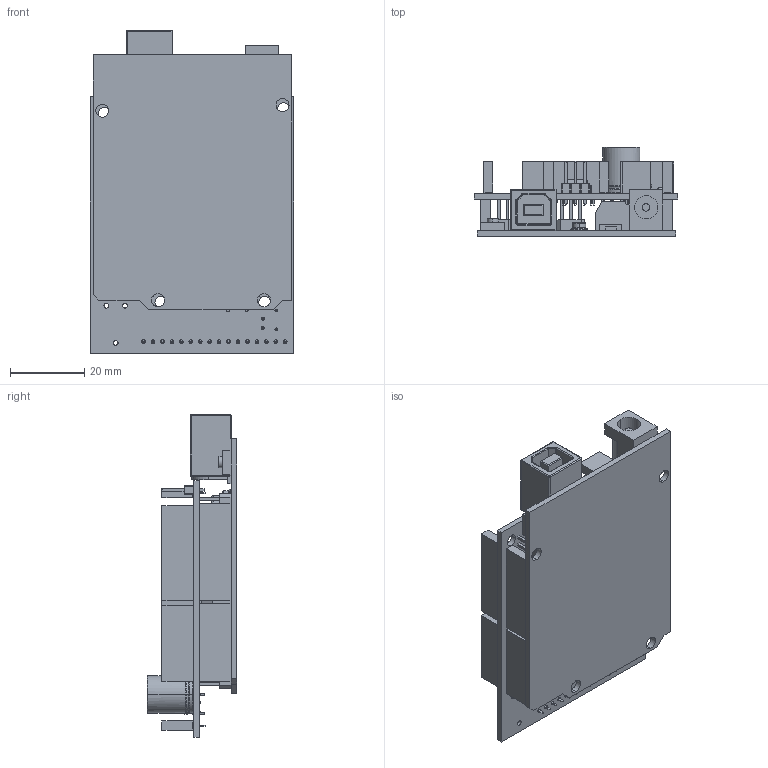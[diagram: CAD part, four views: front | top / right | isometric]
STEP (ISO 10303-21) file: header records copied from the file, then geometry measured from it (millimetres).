
FILE_DESCRIPTION (( 'STEP AP214' ), '1' );
FILE_NAME ('ArduinoUnoR3.STEP', '2026-08-23T20:33:26', ( '' ), ( '' ), 'SwSTEP 2.0', 'SolidWorks 2026', '' );
FILE_SCHEMA (( 'AUTOMOTIVE_DESIGN' ));
Length unit declared in the file: millimetre
Products named in the file (16): AqueliotrophPCB; PinSocket_1x10_P2.54mm_Vertical.step; Arduino_Uno; R_Axial_DIN0204_L3.6mm_D1.6mm_P5.08mm_Horizontal.step; DIP-16_W7.62mm.step; PinSocket_1x02_P2.54mm_Vertical.step; C_Disc_D3.8mm_W2.6mm_P2.50mm.step; PinSocket_1x16_P2.54mm_Vertical.step; PinSocket_1x06_P2.54mm_Vertical.step; Aqueliotroph_PCB.step; PinSocket_1x03_P2.54mm_Vertical.step; AqueliotrophPCB.step; PinSocket_1x08_P2.54mm_Vertical.step; PinHeader_1x03_P2.54mm_Vertical.step; ArduinoUnoR3; C_Radial_D10.0mm_H12.5mm_P5.00mm.step
Assembly tree (21 placements, depth 4):
  ArduinoUnoR3
    AqueliotrophPCB
      AqueliotrophPCB.step
        PinSocket_1x08_P2.54mm_Vertical.step  x2
        PinSocket_1x06_P2.54mm_Vertical.step
        PinSocket_1x10_P2.54mm_Vertical.step
        PinSocket_1x03_P2.54mm_Vertical.step  x3
        C_Radial_D10.0mm_H12.5mm_P5.00mm.step
        R_Axial_DIN0204_L3.6mm_D1.6mm_P5.08mm_Horizontal.step  x2
        PinSocket_1x02_P2.54mm_Vertical.step  x3
        C_Disc_D3.8mm_W2.6mm_P2.50mm.step
        DIP-16_W7.62mm.step
        PinHeader_1x03_P2.54mm_Vertical.step
        PinSocket_1x16_P2.54mm_Vertical.step
        Aqueliotroph_PCB.step
    Arduino_Uno
Bounding box: 54.83 x 24.2 x 86.77 mm (x, y, z)
Volume: 23773.8 mm3; surface area: 28959.3 mm2
Topology: 19 solids, 20 shells, 2846 faces, 7359 edges, 4751 vertices
Faces by surface type: plane 2433, cylinder 324, bspline 40, torus 37, sphere 12
Entity records: 70984 total; most frequent: CARTESIAN_POINT 13504, ORIENTED_EDGE 11922, DIRECTION 11162, EDGE_CURVE 5961, VECTOR 5228, LINE 5228, VERTEX_POINT 3851, AXIS2_PLACEMENT_3D 2967
